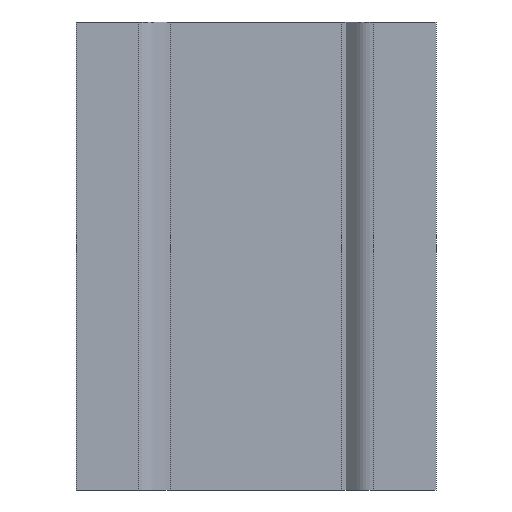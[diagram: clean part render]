
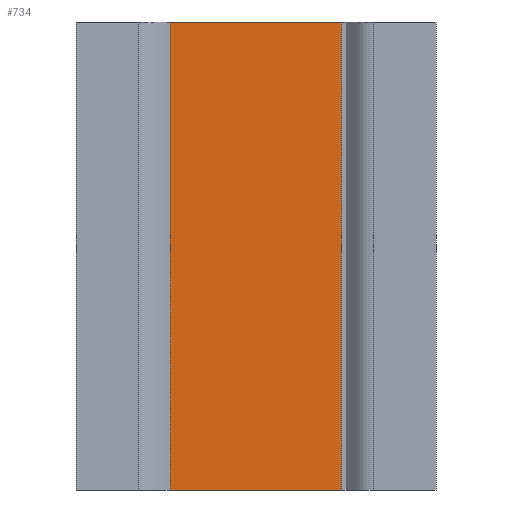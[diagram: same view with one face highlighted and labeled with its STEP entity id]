
A CAD part, front view. The second image highlights one B-rep face of the part: STEP entity #734.
In plain terms, the highlighted planar face has unit normal (0, -1, 0).
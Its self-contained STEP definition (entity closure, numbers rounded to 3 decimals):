
#59 = LINE ( 'NONE', #777, #405 ) ;
#81 = EDGE_CURVE ( 'NONE', #764, #350, #614, .T. ) ;
#137 = CARTESIAN_POINT ( 'NONE',  ( -2.375, 0.5, -11.29 ) ) ;
#147 = LINE ( 'NONE', #683, #731 ) ;
#153 = VECTOR ( 'NONE', #851, 1000. ) ;
#185 = EDGE_CURVE ( 'NONE', #350, #473, #147, .T. ) ;
#219 = ORIENTED_EDGE ( 'NONE', *, *, #185, .F. ) ;
#229 = VERTEX_POINT ( 'NONE', #462 ) ;
#238 = CARTESIAN_POINT ( 'NONE',  ( -2.375, 0.5, -11.29 ) ) ;
#276 = EDGE_CURVE ( 'NONE', #229, #473, #332, .T. ) ;
#278 = ORIENTED_EDGE ( 'NONE', *, *, #276, .T. ) ;
#332 = LINE ( 'NONE', #606, #658 ) ;
#342 = PLANE ( 'NONE',  #598 ) ;
#350 = VERTEX_POINT ( 'NONE', #391 ) ;
#356 = DIRECTION ( 'NONE',  ( 1., 0., 0. ) ) ;
#365 = ORIENTED_EDGE ( 'NONE', *, *, #81, .F. ) ;
#391 = CARTESIAN_POINT ( 'NONE',  ( -2.375, 0.5, 6.5 ) ) ;
#405 = VECTOR ( 'NONE', #649, 1000. ) ;
#462 = CARTESIAN_POINT ( 'NONE',  ( 2.375, 0.5, -6.5 ) ) ;
#465 = DIRECTION ( 'NONE',  ( 0., -1., 0. ) ) ;
#473 = VERTEX_POINT ( 'NONE', #852 ) ;
#588 = EDGE_CURVE ( 'NONE', #229, #764, #59, .T. ) ;
#598 = AXIS2_PLACEMENT_3D ( 'NONE', #137, #465, #736 ) ;
#606 = CARTESIAN_POINT ( 'NONE',  ( 2.375, 0.5, -11.29 ) ) ;
#614 = LINE ( 'NONE', #238, #153 ) ;
#622 = CARTESIAN_POINT ( 'NONE',  ( -2.375, 0.5, -6.5 ) ) ;
#623 = ORIENTED_EDGE ( 'NONE', *, *, #588, .F. ) ;
#649 = DIRECTION ( 'NONE',  ( -1., 0., 0. ) ) ;
#658 = VECTOR ( 'NONE', #867, 1000. ) ;
#683 = CARTESIAN_POINT ( 'NONE',  ( -2.375, 0.5, 6.5 ) ) ;
#731 = VECTOR ( 'NONE', #356, 1000. ) ;
#734 = ADVANCED_FACE ( 'NONE', ( #816 ), #342, .T. ) ;
#736 = DIRECTION ( 'NONE',  ( 0., 0., -1. ) ) ;
#764 = VERTEX_POINT ( 'NONE', #622 ) ;
#777 = CARTESIAN_POINT ( 'NONE',  ( -2.375, 0.5, -6.5 ) ) ;
#816 = FACE_OUTER_BOUND ( 'NONE', #819, .T. ) ;
#819 = EDGE_LOOP ( 'NONE', ( #623, #278, #219, #365 ) ) ;
#851 = DIRECTION ( 'NONE',  ( 0., 0., 1. ) ) ;
#852 = CARTESIAN_POINT ( 'NONE',  ( 2.375, 0.5, 6.5 ) ) ;
#867 = DIRECTION ( 'NONE',  ( 0., 0., 1. ) ) ;
